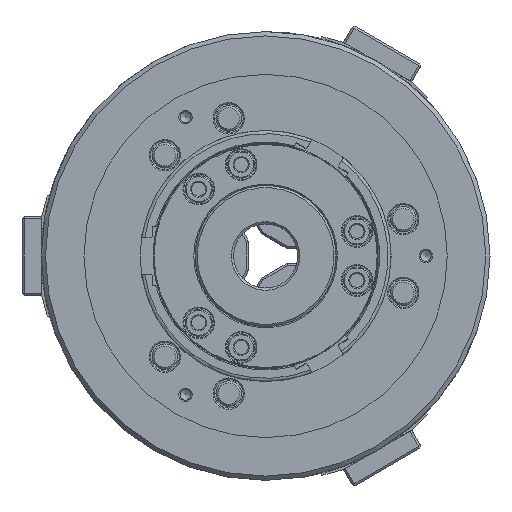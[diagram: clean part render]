
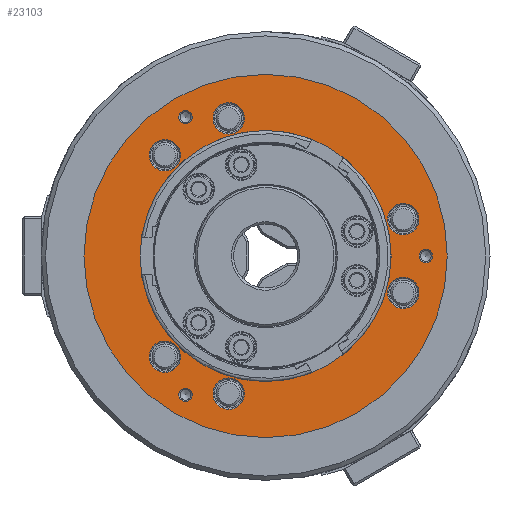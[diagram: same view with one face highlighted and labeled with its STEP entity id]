
A CAD part, left-side view. The second image highlights one B-rep face of the part: STEP entity #23103.
In plain terms, the highlighted planar face has unit normal (-1, 0, 0).
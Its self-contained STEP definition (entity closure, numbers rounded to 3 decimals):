
#12 = EDGE_CURVE ( 'NONE', #24860, #24860, #25048, .T. ) ;
#70 = DIRECTION ( 'NONE',  ( 1., 0., 0. ) ) ;
#173 = EDGE_LOOP ( 'NONE', ( #44559 ) ) ;
#437 = EDGE_LOOP ( 'NONE', ( #45383 ) ) ;
#946 = CARTESIAN_POINT ( 'NONE',  ( -86., -75., 0. ) ) ;
#2426 = CIRCLE ( 'NONE', #33000, 85. ) ;
#3916 = ORIENTED_EDGE ( 'NONE', *, *, #9837, .F. ) ;
#4235 = VERTEX_POINT ( 'NONE', #48026 ) ;
#4593 = CARTESIAN_POINT ( 'NONE',  ( -86., -64.403, -17.257 ) ) ;
#4935 = AXIS2_PLACEMENT_3D ( 'NONE', #33782, #33411, #17208 ) ;
#5065 = FACE_BOUND ( 'NONE', #5493, .T. ) ;
#5314 = VERTEX_POINT ( 'NONE', #33665 ) ;
#5493 = EDGE_LOOP ( 'NONE', ( #39116 ) ) ;
#5668 = CARTESIAN_POINT ( 'NONE',  ( -86., 47.146, 39.796 ) ) ;
#6587 = DIRECTION ( 'NONE',  ( 0., 0., -1. ) ) ;
#7136 = VERTEX_POINT ( 'NONE', #35833 ) ;
#7210 = DIRECTION ( 'NONE',  ( 0., 0., 1. ) ) ;
#8828 = VERTEX_POINT ( 'NONE', #44139 ) ;
#9378 = DIRECTION ( 'NONE',  ( 0., 0., -1. ) ) ;
#9837 = EDGE_CURVE ( 'NONE', #4235, #4235, #21841, .T. ) ;
#10534 = AXIS2_PLACEMENT_3D ( 'NONE', #62811, #18632, #63540 ) ;
#10654 = DIRECTION ( 'NONE',  ( 1., 0., 0. ) ) ;
#11604 = ORIENTED_EDGE ( 'NONE', *, *, #65958, .T. ) ;
#12757 = AXIS2_PLACEMENT_3D ( 'NONE', #946, #45491, #7210 ) ;
#12818 = CARTESIAN_POINT ( 'NONE',  ( -86., 37.5, 64.952 ) ) ;
#13296 = CIRCLE ( 'NONE', #39916, 7.35 ) ;
#13753 = DIRECTION ( 'NONE',  ( 0., 0., 1. ) ) ;
#14622 = DIRECTION ( 'NONE',  ( 0., 0., 1. ) ) ;
#14822 = AXIS2_PLACEMENT_3D ( 'NONE', #12818, #63621, #14622 ) ;
#15901 = DIRECTION ( 'NONE',  ( 0., 0., -1. ) ) ;
#16608 = CARTESIAN_POINT ( 'NONE',  ( -86., 47.146, 47.146 ) ) ;
#16736 = ORIENTED_EDGE ( 'NONE', *, *, #12, .T. ) ;
#17001 = DIRECTION ( 'NONE',  ( -1., 0., 0. ) ) ;
#17208 = DIRECTION ( 'NONE',  ( 0., 0., -1. ) ) ;
#17956 = VERTEX_POINT ( 'NONE', #63978 ) ;
#18135 = EDGE_CURVE ( 'NONE', #5314, #5314, #70360, .T. ) ;
#18174 = DIRECTION ( 'NONE',  ( -1., 0., 0. ) ) ;
#18632 = DIRECTION ( 'NONE',  ( -1., 0., 0. ) ) ;
#18688 = EDGE_CURVE ( 'NONE', #27763, #27763, #25721, .T. ) ;
#19914 = CIRCLE ( 'NONE', #10534, 3.1 ) ;
#20600 = CIRCLE ( 'NONE', #39449, 58.75 ) ;
#21841 = CIRCLE ( 'NONE', #14822, 3.1 ) ;
#21986 = PLANE ( 'NONE',  #4935 ) ;
#22152 = DIRECTION ( 'NONE',  ( 0., 0., -1. ) ) ;
#22345 = FACE_BOUND ( 'NONE', #44898, .T. ) ;
#22352 = EDGE_CURVE ( 'NONE', #7136, #7136, #68392, .T. ) ;
#22715 = FACE_BOUND ( 'NONE', #51761, .T. ) ;
#23103 = ADVANCED_FACE ( 'NONE', ( #40042, #68010, #5065, #28235, #28605, #22715, #49965, #50321, #62476, #22345, #72445 ), #21986, .F. ) ;
#23409 = AXIS2_PLACEMENT_3D ( 'NONE', #16608, #49737, #15901 ) ;
#24860 = VERTEX_POINT ( 'NONE', #63534 ) ;
#25048 = CIRCLE ( 'NONE', #53272, 7.35 ) ;
#25721 = CIRCLE ( 'NONE', #23409, 7.35 ) ;
#25725 = VERTEX_POINT ( 'NONE', #26084 ) ;
#26084 = CARTESIAN_POINT ( 'NONE',  ( -86., 37.5, -61.852 ) ) ;
#27464 = ORIENTED_EDGE ( 'NONE', *, *, #18135, .F. ) ;
#27763 = VERTEX_POINT ( 'NONE', #5668 ) ;
#28065 = CIRCLE ( 'NONE', #52778, 7.35 ) ;
#28235 = FACE_BOUND ( 'NONE', #54595, .T. ) ;
#28515 = CARTESIAN_POINT ( 'NONE',  ( -86., 17.257, 64.403 ) ) ;
#28605 = FACE_BOUND ( 'NONE', #54484, .T. ) ;
#28714 = CIRCLE ( 'NONE', #48661, 7.35 ) ;
#29729 = VERTEX_POINT ( 'NONE', #46662 ) ;
#29961 = EDGE_CURVE ( 'NONE', #59387, #59387, #20600, .T. ) ;
#32929 = DIRECTION ( 'NONE',  ( 0., 0., -1. ) ) ;
#33000 = AXIS2_PLACEMENT_3D ( 'NONE', #55659, #17001, #45694 ) ;
#33411 = DIRECTION ( 'NONE',  ( 1., 0., 0. ) ) ;
#33665 = CARTESIAN_POINT ( 'NONE',  ( -86., -75., 3.1 ) ) ;
#33782 = CARTESIAN_POINT ( 'NONE',  ( -86., 85., 0. ) ) ;
#35833 = CARTESIAN_POINT ( 'NONE',  ( -86., 47.146, -54.496 ) ) ;
#37345 = CARTESIAN_POINT ( 'NONE',  ( -86., 17.257, -64.403 ) ) ;
#38009 = ORIENTED_EDGE ( 'NONE', *, *, #22352, .T. ) ;
#38213 = EDGE_LOOP ( 'NONE', ( #3916 ) ) ;
#38951 = ORIENTED_EDGE ( 'NONE', *, *, #29961, .F. ) ;
#39116 = ORIENTED_EDGE ( 'NONE', *, *, #40235, .T. ) ;
#39449 = AXIS2_PLACEMENT_3D ( 'NONE', #63453, #18174, #13753 ) ;
#39916 = AXIS2_PLACEMENT_3D ( 'NONE', #37345, #59805, #9378 ) ;
#40042 = FACE_BOUND ( 'NONE', #38213, .T. ) ;
#40235 = EDGE_CURVE ( 'NONE', #64067, #64067, #13296, .T. ) ;
#41864 = EDGE_LOOP ( 'NONE', ( #27464 ) ) ;
#43472 = EDGE_CURVE ( 'NONE', #25725, #25725, #19914, .T. ) ;
#44139 = CARTESIAN_POINT ( 'NONE',  ( -86., -64.403, 9.907 ) ) ;
#44559 = ORIENTED_EDGE ( 'NONE', *, *, #66523, .T. ) ;
#44662 = EDGE_CURVE ( 'NONE', #8828, #8828, #28065, .T. ) ;
#44898 = EDGE_LOOP ( 'NONE', ( #38951 ) ) ;
#45383 = ORIENTED_EDGE ( 'NONE', *, *, #43472, .F. ) ;
#45491 = DIRECTION ( 'NONE',  ( -1., 0., 0. ) ) ;
#45694 = DIRECTION ( 'NONE',  ( 0., 0., 1. ) ) ;
#46662 = CARTESIAN_POINT ( 'NONE',  ( -86., 0., 85. ) ) ;
#47323 = ORIENTED_EDGE ( 'NONE', *, *, #44662, .T. ) ;
#48026 = CARTESIAN_POINT ( 'NONE',  ( -86., 37.5, 68.052 ) ) ;
#48661 = AXIS2_PLACEMENT_3D ( 'NONE', #4593, #60927, #32929 ) ;
#49614 = EDGE_LOOP ( 'NONE', ( #11604 ) ) ;
#49737 = DIRECTION ( 'NONE',  ( 1., 0., 0. ) ) ;
#49965 = FACE_BOUND ( 'NONE', #437, .T. ) ;
#50321 = FACE_BOUND ( 'NONE', #51406, .T. ) ;
#50850 = CARTESIAN_POINT ( 'NONE',  ( -86., 47.146, -47.146 ) ) ;
#51406 = EDGE_LOOP ( 'NONE', ( #47323 ) ) ;
#51761 = EDGE_LOOP ( 'NONE', ( #16736 ) ) ;
#52778 = AXIS2_PLACEMENT_3D ( 'NONE', #72847, #10654, #6587 ) ;
#53272 = AXIS2_PLACEMENT_3D ( 'NONE', #28515, #67926, #68284 ) ;
#54484 = EDGE_LOOP ( 'NONE', ( #67940 ) ) ;
#54595 = EDGE_LOOP ( 'NONE', ( #38009 ) ) ;
#55659 = CARTESIAN_POINT ( 'NONE',  ( -86., 0., 0. ) ) ;
#57829 = AXIS2_PLACEMENT_3D ( 'NONE', #50850, #70, #22152 ) ;
#59387 = VERTEX_POINT ( 'NONE', #64900 ) ;
#59805 = DIRECTION ( 'NONE',  ( 1., 0., 0. ) ) ;
#60927 = DIRECTION ( 'NONE',  ( 1., 0., 0. ) ) ;
#62476 = FACE_BOUND ( 'NONE', #49614, .T. ) ;
#62811 = CARTESIAN_POINT ( 'NONE',  ( -86., 37.5, -64.952 ) ) ;
#63453 = CARTESIAN_POINT ( 'NONE',  ( -86., 0., 0. ) ) ;
#63534 = CARTESIAN_POINT ( 'NONE',  ( -86., 17.257, 57.053 ) ) ;
#63540 = DIRECTION ( 'NONE',  ( 0., 0., 1. ) ) ;
#63621 = DIRECTION ( 'NONE',  ( -1., 0., 0. ) ) ;
#63978 = CARTESIAN_POINT ( 'NONE',  ( -86., -64.403, -24.607 ) ) ;
#64067 = VERTEX_POINT ( 'NONE', #69214 ) ;
#64900 = CARTESIAN_POINT ( 'NONE',  ( -86., 0., 58.75 ) ) ;
#65958 = EDGE_CURVE ( 'NONE', #17956, #17956, #28714, .T. ) ;
#66523 = EDGE_CURVE ( 'NONE', #29729, #29729, #2426, .T. ) ;
#67926 = DIRECTION ( 'NONE',  ( 1., 0., 0. ) ) ;
#67940 = ORIENTED_EDGE ( 'NONE', *, *, #18688, .T. ) ;
#68010 = FACE_BOUND ( 'NONE', #41864, .T. ) ;
#68284 = DIRECTION ( 'NONE',  ( 0., 0., -1. ) ) ;
#68392 = CIRCLE ( 'NONE', #57829, 7.35 ) ;
#69214 = CARTESIAN_POINT ( 'NONE',  ( -86., 17.257, -71.753 ) ) ;
#70360 = CIRCLE ( 'NONE', #12757, 3.1 ) ;
#72445 = FACE_OUTER_BOUND ( 'NONE', #173, .T. ) ;
#72847 = CARTESIAN_POINT ( 'NONE',  ( -86., -64.403, 17.257 ) ) ;
